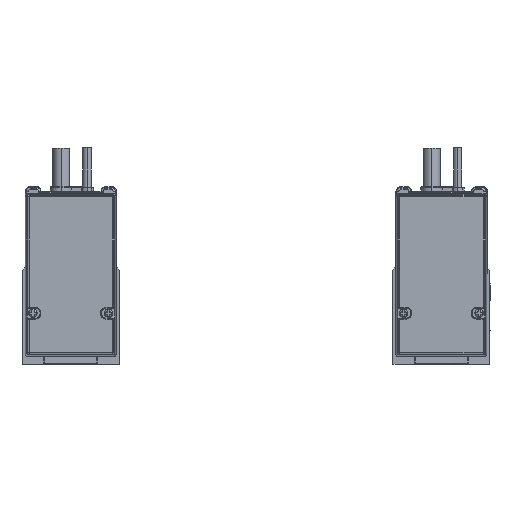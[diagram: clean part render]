
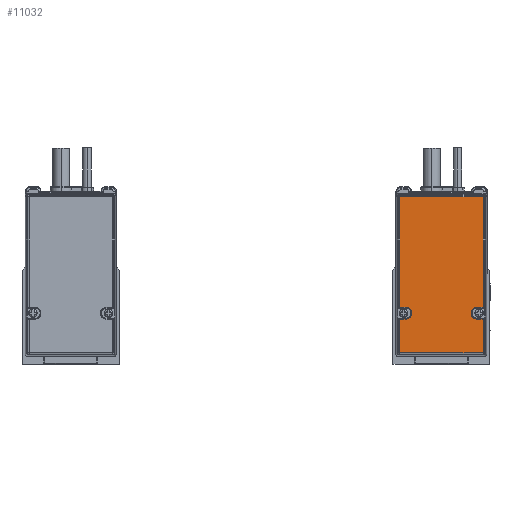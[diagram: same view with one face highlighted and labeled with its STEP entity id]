
A CAD part, left-side view. The second image highlights one B-rep face of the part: STEP entity #11032.
In plain terms, the highlighted planar face has unit normal (-1, 0, 0).
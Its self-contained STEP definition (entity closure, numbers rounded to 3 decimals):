
#11032=ADVANCED_FACE('',(#22896),#22897,.F.);
#22896=FACE_OUTER_BOUND('',#42928,.T.);
#22897=PLANE('',#42929);
#42928=EDGE_LOOP('',(#77564,#77565,#77566,#77567,#77568,#77569,#77570,#77571,#77572,#77573,#77574,#77575,#77576,#77577,#77578,#77579));
#42929=AXIS2_PLACEMENT_3D('',#77580,#77581,#77582);
#77564=ORIENTED_EDGE('',*,*,#90750,.F.);
#77565=ORIENTED_EDGE('',*,*,#101535,.F.);
#77566=ORIENTED_EDGE('',*,*,#101536,.F.);
#77567=ORIENTED_EDGE('',*,*,#98429,.F.);
#77568=ORIENTED_EDGE('',*,*,#101537,.F.);
#77569=ORIENTED_EDGE('',*,*,#101229,.F.);
#77570=ORIENTED_EDGE('',*,*,#101538,.F.);
#77571=ORIENTED_EDGE('',*,*,#91520,.F.);
#77572=ORIENTED_EDGE('',*,*,#91622,.F.);
#77573=ORIENTED_EDGE('',*,*,#99536,.F.);
#77574=ORIENTED_EDGE('',*,*,#100402,.F.);
#77575=ORIENTED_EDGE('',*,*,#90007,.F.);
#77576=ORIENTED_EDGE('',*,*,#99960,.F.);
#77577=ORIENTED_EDGE('',*,*,#94973,.F.);
#77578=ORIENTED_EDGE('',*,*,#101539,.F.);
#77579=ORIENTED_EDGE('',*,*,#96475,.F.);
#77580=CARTESIAN_POINT('',(1511.3,11.59,536.038));
#77581=DIRECTION('',(1.0,0.0,0.0));
#77582=DIRECTION('',(0.0,1.0,0.));
#90007=EDGE_CURVE('',#106815,#106817,#106818,.T.);
#90750=EDGE_CURVE('',#108116,#108118,#108119,.T.);
#91520=EDGE_CURVE('',#109409,#109411,#109412,.T.);
#91622=EDGE_CURVE('',#109583,#109409,#109585,.T.);
#94973=EDGE_CURVE('',#115065,#115067,#115068,.T.);
#96475=EDGE_CURVE('',#108118,#117302,#117303,.T.);
#98429=EDGE_CURVE('',#119861,#109262,#119999,.T.);
#99536=EDGE_CURVE('',#121438,#109583,#121440,.T.);
#99960=EDGE_CURVE('',#115067,#106815,#121965,.T.);
#100402=EDGE_CURVE('',#106817,#121438,#122535,.T.);
#101229=EDGE_CURVE('',#123491,#123493,#123494,.T.);
#101535=EDGE_CURVE('',#109840,#108116,#123833,.T.);
#101536=EDGE_CURVE('',#109262,#109840,#123834,.T.);
#101537=EDGE_CURVE('',#123493,#119861,#123835,.T.);
#101538=EDGE_CURVE('',#109411,#123491,#123836,.T.);
#101539=EDGE_CURVE('',#117302,#115065,#123837,.T.);
#106815=VERTEX_POINT('',#131101);
#106817=VERTEX_POINT('',#131103);
#106818=LINE('',#131104,#131105);
#108116=VERTEX_POINT('',#132916);
#108118=VERTEX_POINT('',#132918);
#108119=LINE('',#132919,#132920);
#109262=VERTEX_POINT('',#134416);
#109409=VERTEX_POINT('',#134601);
#109411=VERTEX_POINT('',#134603);
#109412=CIRCLE('',#134604,2.5);
#109583=VERTEX_POINT('',#134822);
#109585=LINE('',#134824,#134825);
#109840=VERTEX_POINT('',#135152);
#115065=VERTEX_POINT('',#142550);
#115067=VERTEX_POINT('',#142552);
#115068=CIRCLE('',#142553,2.5);
#117302=VERTEX_POINT('',#145602);
#117303=CIRCLE('',#145603,2.5);
#119861=VERTEX_POINT('',#149629);
#119999=LINE('',#149807,#149808);
#121438=VERTEX_POINT('',#151746);
#121440=LINE('',#151748,#151749);
#121965=LINE('',#152457,#152458);
#122535=LINE('',#153322,#153323);
#123491=VERTEX_POINT('',#154786);
#123493=VERTEX_POINT('',#154788);
#123494=CIRCLE('',#154789,2.5);
#123833=LINE('',#155297,#155298);
#123834=LINE('',#155299,#155300);
#123835=LINE('',#155301,#155302);
#123836=LINE('',#155303,#155304);
#123837=LINE('',#155305,#155306);
#131101=CARTESIAN_POINT('',(1511.3,30.9,519.492));
#131103=CARTESIAN_POINT('',(1511.3,30.9,570.666));
#131104=CARTESIAN_POINT('',(1511.3,30.9,538.216));
#131105=VECTOR('',#160711,1.0);
#132916=CARTESIAN_POINT('',(1511.3,30.9,514.092));
#132918=CARTESIAN_POINT('',(1511.3,27.89,514.092));
#132919=CARTESIAN_POINT('',(1511.3,20.34,514.092));
#132920=VECTOR('',#161743,1.0);
#134416=CARTESIAN_POINT('',(1511.3,-7.72,498.482));
#134601=CARTESIAN_POINT('',(1511.3,-4.71,519.492));
#134603=CARTESIAN_POINT('',(1511.3,-2.21,516.992));
#134604=AXIS2_PLACEMENT_3D('',#162825,#162826,#162827);
#134822=CARTESIAN_POINT('',(1511.3,-7.72,519.492));
#134824=CARTESIAN_POINT('',(1511.3,2.84,519.492));
#134825=VECTOR('',#162980,1.0);
#135152=CARTESIAN_POINT('',(1511.3,30.9,498.482));
#142550=CARTESIAN_POINT('',(1511.3,25.39,516.992));
#142552=CARTESIAN_POINT('',(1511.3,27.89,519.492));
#142553=AXIS2_PLACEMENT_3D('',#167601,#167602,#167603);
#145602=CARTESIAN_POINT('',(1511.3,25.39,516.592));
#145603=AXIS2_PLACEMENT_3D('',#169676,#169677,#169678);
#149629=CARTESIAN_POINT('',(1511.3,-7.72,514.092));
#149807=CARTESIAN_POINT('',(1511.3,-7.72,536.038));
#149808=VECTOR('',#172059,1.0);
#151746=CARTESIAN_POINT('',(1511.3,-7.72,570.666));
#151748=CARTESIAN_POINT('',(1511.3,-7.72,536.038));
#151749=VECTOR('',#173442,1.0);
#152457=CARTESIAN_POINT('',(1511.3,20.34,519.492));
#152458=VECTOR('',#173920,1.0);
#153322=CARTESIAN_POINT('',(1511.3,10.34,570.666));
#153323=VECTOR('',#174432,1.0);
#154786=CARTESIAN_POINT('',(1511.3,-2.21,516.592));
#154788=CARTESIAN_POINT('',(1511.3,-4.71,514.092));
#154789=AXIS2_PLACEMENT_3D('',#175276,#175277,#175278);
#155297=CARTESIAN_POINT('',(1511.3,30.9,538.216));
#155298=VECTOR('',#175628,1.0);
#155299=CARTESIAN_POINT('',(1511.3,11.59,498.482));
#155300=VECTOR('',#175629,1.0);
#155301=CARTESIAN_POINT('',(1511.3,2.84,514.092));
#155302=VECTOR('',#175630,1.0);
#155303=CARTESIAN_POINT('',(1511.3,-2.21,526.415));
#155304=VECTOR('',#175631,1.0);
#155305=CARTESIAN_POINT('',(1511.3,25.39,526.415));
#155306=VECTOR('',#175632,1.0);
#160711=DIRECTION('',(0.0,0.,1.0));
#161743=DIRECTION('',(0.0,-1.0,0.0));
#162825=CARTESIAN_POINT('',(1511.3,-4.71,516.992));
#162826=DIRECTION('',(-1.0,0.0,0.0));
#162827=DIRECTION('',(0.0,0.707,0.707));
#162980=DIRECTION('',(0.0,1.0,0.0));
#167601=CARTESIAN_POINT('',(1511.3,27.89,516.992));
#167602=DIRECTION('',(-1.0,0.0,0.0));
#167603=DIRECTION('',(0.0,-0.707,0.707));
#169676=CARTESIAN_POINT('',(1511.3,27.89,516.592));
#169677=DIRECTION('',(-1.0,0.0,0.0));
#169678=DIRECTION('',(0.0,-0.707,-0.707));
#172059=DIRECTION('',(0.0,0.,-1.0));
#173442=DIRECTION('',(0.0,0.,-1.0));
#173920=DIRECTION('',(0.0,1.0,0.0));
#174432=DIRECTION('',(0.0,-1.0,0.0));
#175276=CARTESIAN_POINT('',(1511.3,-4.71,516.592));
#175277=DIRECTION('',(-1.0,0.0,0.0));
#175278=DIRECTION('',(0.0,0.707,-0.707));
#175628=DIRECTION('',(0.0,0.,1.0));
#175629=DIRECTION('',(0.0,1.0,0.0));
#175630=DIRECTION('',(0.0,-1.0,0.0));
#175631=DIRECTION('',(0.0,0.0,-1.0));
#175632=DIRECTION('',(0.0,0.0,1.0));
